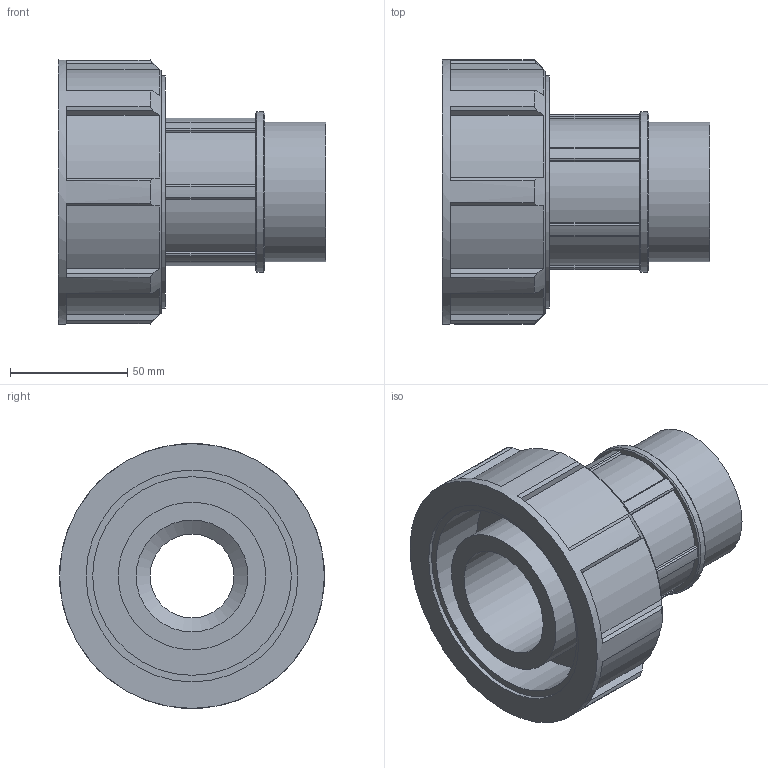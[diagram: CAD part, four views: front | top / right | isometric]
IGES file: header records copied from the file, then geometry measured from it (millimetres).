
Global section: file name: 072500063020_182500063020_0725060630200A.ipt; native system: Autodesk Inventor 2015; preprocessor: unknown; author: KIM; date: 20170608.042204; units: millimetre
Bounding box: 114 x 113 x 113 mm (x, y, z)
Volume: 356766 mm3; surface area: 83803.3 mm2
Topology: 1 solids, 1 shells, 108 faces, 300 edges, 202 vertices
Faces by surface type: plane 74, cylinder 25, revolution 6, cone 3
Full cylindrical faces by diameter (mm): 59.614 x1, 63 x1, 68.556 x1, 99.44 x1, 113 x1
